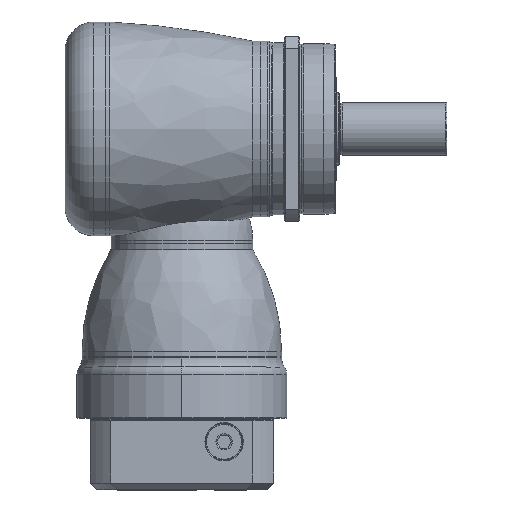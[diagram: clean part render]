
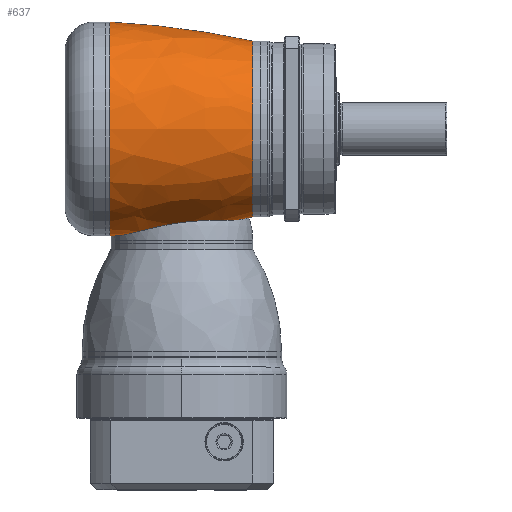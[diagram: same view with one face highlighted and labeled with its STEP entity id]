
A CAD part, top view. The second image highlights one B-rep face of the part: STEP entity #637.
In plain terms, the highlighted free-form (B-spline) face has degree [3, 3] with [7, 4] control points.
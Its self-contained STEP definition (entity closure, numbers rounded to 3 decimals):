
#108=CARTESIAN_POINT('',(-92.521,617.494,
0.));
#109=DIRECTION('',(0.,0.,-1.));
#110=DIRECTION('',(0.209,-0.978,0.));
#111=AXIS2_PLACEMENT_3D('',#108,#109,#110);
#118=CARTESIAN_POINT('',(-92.521,-617.494,
0.));
#119=DIRECTION('',(0.,0.,1.));
#120=DIRECTION('',(0.209,0.978,0.));
#121=AXIS2_PLACEMENT_3D('',#118,#119,#120);
#123=CARTESIAN_POINT('',(-92.521,617.494,
0.));
#124=DIRECTION('',(0.,0.,-1.));
#125=DIRECTION('',(0.064,-0.998,0.));
#126=AXIS2_PLACEMENT_3D('',#123,#124,#125);
#128=CARTESIAN_POINT('',(54.,0.,0.));
#129=DIRECTION('',(1.,0.,0.));
#130=DIRECTION('',(0.,1.,0.));
#131=AXIS2_PLACEMENT_3D('',#128,#129,#130);
#133=CARTESIAN_POINT('',(-47.703,-81.07,0.));
#134=CARTESIAN_POINT('',(-46.711,-81.006,1.883));
#135=CARTESIAN_POINT('',(-44.473,-80.728,5.573));
#136=CARTESIAN_POINT('',(-40.271,-79.881,10.825));
#137=CARTESIAN_POINT('',(-35.457,-78.725,15.432));
#138=CARTESIAN_POINT('',(-30.052,-77.36,19.386));
#139=CARTESIAN_POINT('',(-24.133,-75.891,22.612));
#140=CARTESIAN_POINT('',(-17.681,-74.404,25.078));
#141=CARTESIAN_POINT('',(-10.911,-73.028,26.68));
#142=CARTESIAN_POINT('',(-3.939,-71.853,27.373));
#143=CARTESIAN_POINT('',(2.54,-70.989,27.228));
#144=CARTESIAN_POINT('',(9.265,-70.327,26.29));
#145=CARTESIAN_POINT('',(15.865,-69.908,24.519));
#146=CARTESIAN_POINT('',(22.183,-69.694,21.955));
#147=CARTESIAN_POINT('',(27.994,-69.62,18.707));
#148=CARTESIAN_POINT('',(33.264,-69.595,14.827));
#149=CARTESIAN_POINT('',(37.917,-69.53,10.394));
#150=CARTESIAN_POINT('',(41.953,-69.326,5.394));
#151=CARTESIAN_POINT('',(44.113,-69.043,1.827));
#152=CARTESIAN_POINT('',(45.059,-68.853,
0.));
#178=CARTESIAN_POINT('',(-55.,0.,0.));
#179=DIRECTION('',(1.,0.,0.));
#180=DIRECTION('',(0.,1.,0.));
#181=AXIS2_PLACEMENT_3D('',#178,#179,#180);
#440=CARTESIAN_POINT('',(54.,67.,0.));
#442=VERTEX_POINT('',#440);
#443=CARTESIAN_POINT('',(-55.,81.5,0.));
#444=VERTEX_POINT('',#443);
#446=CARTESIAN_POINT('',(54.,-67.,0.));
#448=VERTEX_POINT('',#446);
#449=CARTESIAN_POINT('',(45.059,-68.853,
0.));
#450=VERTEX_POINT('',#449);
#451=CARTESIAN_POINT('',(-47.703,-81.07,
0.));
#452=CARTESIAN_POINT('',(-55.,-81.5,0.));
#453=VERTEX_POINT('',#451);
#454=VERTEX_POINT('',#452);
#597=CARTESIAN_POINT('',(-57.198,81.453,-5.125));
#598=CARTESIAN_POINT('',(-19.046,79.53,-5.004));
#599=CARTESIAN_POINT('',(18.822,74.502,-4.687));
#600=CARTESIAN_POINT('',(56.152,66.405,-4.178));
#601=CARTESIAN_POINT('',(-57.198,84.607,45.002));
#602=CARTESIAN_POINT('',(-19.046,82.609,43.939));
#603=CARTESIAN_POINT('',(18.822,77.387,41.161));
#604=CARTESIAN_POINT('',(56.152,68.976,36.687));
#605=CARTESIAN_POINT('',(-57.198,50.225,81.615));
#606=CARTESIAN_POINT('',(-19.046,49.039,79.687));
#607=CARTESIAN_POINT('',(18.822,45.939,74.649));
#608=CARTESIAN_POINT('',(56.152,40.946,66.536));
#609=CARTESIAN_POINT('',(-57.198,0.,81.615));
#610=CARTESIAN_POINT('',(-19.046,0.,79.687));
#611=CARTESIAN_POINT('',(18.822,0.,74.649));
#612=CARTESIAN_POINT('',(56.152,0.,66.536));
#613=CARTESIAN_POINT('',(-57.198,-50.225,81.615));
#614=CARTESIAN_POINT('',(-19.046,-49.039,79.687));
#615=CARTESIAN_POINT('',(18.822,-45.939,74.649));
#616=CARTESIAN_POINT('',(56.152,-40.946,66.536));
#617=CARTESIAN_POINT('',(-57.198,-84.607,45.002));
#618=CARTESIAN_POINT('',(-19.046,-82.609,43.939));
#619=CARTESIAN_POINT('',(18.822,-77.387,41.161));
#620=CARTESIAN_POINT('',(56.152,-68.976,36.687));
#621=CARTESIAN_POINT('',(-57.198,-81.453,
-5.125));
#622=CARTESIAN_POINT('',(-19.046,-79.53,
-5.004));
#623=CARTESIAN_POINT('',(18.822,-74.502,-4.687));
#624=CARTESIAN_POINT('',(56.152,-66.405,-4.178));
#625=(BOUNDED_SURFACE()B_SPLINE_SURFACE(3,3,((#597,#598,#599,#600),(#601,#602,
#603,#604),(#605,#606,#607,#608),(#609,#610,#611,#612),(#613,#614,#615,#616),(
#617,#618,#619,#620),(#621,#622,#623,#624)),.UNSPECIFIED.,.F.,.F.,.F.)B_SPLINE_SURFACE_WITH_KNOTS((4,3,4),(4,4),(0.,1.,2.),(0.,1.),.UNSPECIFIED.)GEOMETRIC_REPRESENTATION_ITEM()RATIONAL_B_SPLINE_SURFACE(((1.189,
1.187,1.187,1.189),(0.939,
0.937,0.937,0.939),(0.939,
0.937,0.937,0.939),(1.189,
1.187,1.187,1.189),(0.939,
0.937,0.937,0.939),(0.939,
0.937,0.937,0.939),(1.189,
1.187,1.187,1.189)))REPRESENTATION_ITEM('')SURFACE());
#626=ORIENTED_EDGE('',*,*,#579,.T.);
#628=ORIENTED_EDGE('',*,*,#627,.F.);
#629=ORIENTED_EDGE('',*,*,#587,.T.);
#631=ORIENTED_EDGE('',*,*,#630,.F.);
#632=ORIENTED_EDGE('',*,*,#583,.F.);
#634=ORIENTED_EDGE('',*,*,#633,.T.);
#635=EDGE_LOOP('',(#626,#628,#629,#631,#632,#634));
#636=FACE_OUTER_BOUND('',#635,.F.);
#637=ADVANCED_FACE('',(#636),#625,.T.);
#112=CIRCLE('',#111,700.);
#122=CIRCLE('',#121,700.);
#127=CIRCLE('',#126,700.);
#132=CIRCLE('',#131,67.);
#153=B_SPLINE_CURVE_WITH_KNOTS('',3,(#133,#134,#135,#136,#137,#138,#139,#140,
#141,#142,#143,#144,#145,#146,#147,#148,#149,#150,#151,#152),.UNSPECIFIED.,.F.,
.F.,(4,1,1,1,1,1,1,1,1,1,1,1,1,1,1,1,1,4),(0.,0.059,
0.118,0.176,0.235,0.294,
0.353,0.412,0.471,0.529,
0.588,0.647,0.706,0.765,
0.824,0.882,0.941,1.),.UNSPECIFIED.);
#182=CIRCLE('',#181,81.5);
#579=EDGE_CURVE('',#448,#450,#112,.T.);
#583=EDGE_CURVE('',#442,#444,#122,.T.);
#587=EDGE_CURVE('',#453,#454,#127,.T.);
#627=EDGE_CURVE('',#453,#450,#153,.T.);
#630=EDGE_CURVE('',#444,#454,#182,.T.);
#633=EDGE_CURVE('',#442,#448,#132,.T.);
